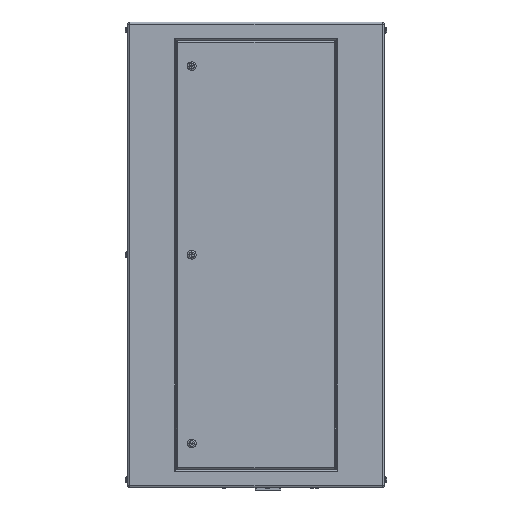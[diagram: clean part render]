
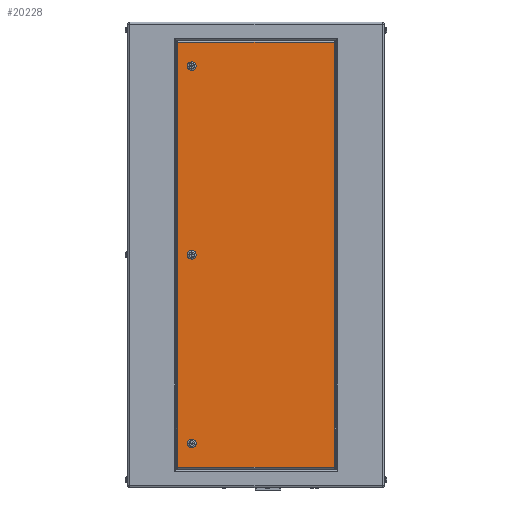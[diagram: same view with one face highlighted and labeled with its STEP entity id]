
A CAD part, left-side view. The second image highlights one B-rep face of the part: STEP entity #20228.
In plain terms, the highlighted planar face has unit normal (-1, 0, 0).
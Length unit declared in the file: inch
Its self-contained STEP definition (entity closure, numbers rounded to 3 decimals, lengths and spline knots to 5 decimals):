
#15 = CARTESIAN_POINT ( 'NONE',  ( -18.5, 8., 23.5 ) ) ;
#491 = ORIENTED_EDGE ( 'NONE', *, *, #8576, .T. ) ;
#955 = ORIENTED_EDGE ( 'NONE', *, *, #19459, .T. ) ;
#1074 = CIRCLE ( 'NONE', #25658, 0.55 ) ;
#1183 = CARTESIAN_POINT ( 'NONE',  ( -18.5, 8., -23.5 ) ) ;
#1375 = DIRECTION ( 'NONE',  ( 0., 0., -1. ) ) ;
#1640 = AXIS2_PLACEMENT_3D ( 'NONE', #17357, #29373, #23860 ) ;
#1978 = EDGE_CURVE ( 'NONE', #10268, #20912, #28036, .T. ) ;
#2084 = VERTEX_POINT ( 'NONE', #17800 ) ;
#2102 = FACE_BOUND ( 'NONE', #21386, .T. ) ;
#2834 = CARTESIAN_POINT ( 'NONE',  ( -18.5, 8., 23.5 ) ) ;
#3108 = VERTEX_POINT ( 'NONE', #20512 ) ;
#4236 = LINE ( 'NONE', #16302, #12051 ) ;
#4587 = DIRECTION ( 'NONE',  ( 0., 0., -1. ) ) ;
#4954 = AXIS2_PLACEMENT_3D ( 'NONE', #10650, #10827, #29522 ) ;
#5475 = PLANE ( 'NONE',  #4954 ) ;
#5876 = DIRECTION ( 'NONE',  ( 0., -1., 0. ) ) ;
#6893 = DIRECTION ( 'NONE',  ( 0., 0., -1. ) ) ;
#6929 = VERTEX_POINT ( 'NONE', #21140 ) ;
#7558 = DIRECTION ( 'NONE',  ( 0., 0., 1. ) ) ;
#7749 = ORIENTED_EDGE ( 'NONE', *, *, #37951, .T. ) ;
#7921 = CARTESIAN_POINT ( 'NONE',  ( -18.5, -9.74, -26.49 ) ) ;
#8220 = EDGE_LOOP ( 'NONE', ( #23922, #7749, #16414, #25724 ) ) ;
#8359 = VERTEX_POINT ( 'NONE', #29612 ) ;
#8576 = EDGE_CURVE ( 'NONE', #20912, #10268, #34447, .T. ) ;
#9138 = EDGE_LOOP ( 'NONE', ( #13337, #955 ) ) ;
#10268 = VERTEX_POINT ( 'NONE', #23968 ) ;
#10499 = DIRECTION ( 'NONE',  ( 1., 0., 0. ) ) ;
#10514 = CIRCLE ( 'NONE', #1640, 0.55 ) ;
#10637 = EDGE_LOOP ( 'NONE', ( #491, #34316 ) ) ;
#10650 = CARTESIAN_POINT ( 'NONE',  ( -18.5, 16., -29. ) ) ;
#10827 = DIRECTION ( 'NONE',  ( 1., 0., 0. ) ) ;
#10915 = VECTOR ( 'NONE', #5876, 39.37008 ) ;
#11702 = CARTESIAN_POINT ( 'NONE',  ( -18.5, 9.74, -29. ) ) ;
#12051 = VECTOR ( 'NONE', #33759, 39.37008 ) ;
#12055 = LINE ( 'NONE', #15181, #10915 ) ;
#12453 = LINE ( 'NONE', #11702, #20386 ) ;
#13337 = ORIENTED_EDGE ( 'NONE', *, *, #15431, .T. ) ;
#13520 = LINE ( 'NONE', #28257, #25424 ) ;
#14072 = DIRECTION ( 'NONE',  ( 1., 0., 0. ) ) ;
#14502 = DIRECTION ( 'NONE',  ( 1., 0., 0. ) ) ;
#14922 = DIRECTION ( 'NONE',  ( 1., 0., 0. ) ) ;
#15181 = CARTESIAN_POINT ( 'NONE',  ( -18.5, 16., -26.49 ) ) ;
#15431 = EDGE_CURVE ( 'NONE', #3108, #15680, #10514, .T. ) ;
#15486 = AXIS2_PLACEMENT_3D ( 'NONE', #19787, #14072, #4587 ) ;
#15680 = VERTEX_POINT ( 'NONE', #26003 ) ;
#16302 = CARTESIAN_POINT ( 'NONE',  ( -18.5, 16., 26.49 ) ) ;
#16414 = ORIENTED_EDGE ( 'NONE', *, *, #21069, .T. ) ;
#17194 = EDGE_CURVE ( 'NONE', #2084, #28079, #12453, .T. ) ;
#17357 = CARTESIAN_POINT ( 'NONE',  ( -18.5, 8., 0. ) ) ;
#17800 = CARTESIAN_POINT ( 'NONE',  ( -18.5, 9.74, 26.49 ) ) ;
#17819 = CARTESIAN_POINT ( 'NONE',  ( -18.5, 8., 24.05 ) ) ;
#18283 = CARTESIAN_POINT ( 'NONE',  ( -18.5, 8., 0. ) ) ;
#19459 = EDGE_CURVE ( 'NONE', #15680, #3108, #1074, .T. ) ;
#19787 = CARTESIAN_POINT ( 'NONE',  ( -18.5, 8., -23.5 ) ) ;
#20228 = ADVANCED_FACE ( 'NONE', ( #31848, #38358, #2102, #32423 ), #5475, .F. ) ;
#20259 = CIRCLE ( 'NONE', #30300, 0.55 ) ;
#20386 = VECTOR ( 'NONE', #6893, 39.37008 ) ;
#20512 = CARTESIAN_POINT ( 'NONE',  ( -18.5, 8., -0.55 ) ) ;
#20681 = DIRECTION ( 'NONE',  ( 0., 0., -1. ) ) ;
#20912 = VERTEX_POINT ( 'NONE', #31226 ) ;
#21069 = EDGE_CURVE ( 'NONE', #8359, #2084, #4236, .T. ) ;
#21140 = CARTESIAN_POINT ( 'NONE',  ( -18.5, 8., 22.95 ) ) ;
#21386 = EDGE_LOOP ( 'NONE', ( #37422, #26268 ) ) ;
#22257 = EDGE_CURVE ( 'NONE', #6929, #27920, #20259, .T. ) ;
#23188 = EDGE_CURVE ( 'NONE', #28079, #32383, #12055, .T. ) ;
#23860 = DIRECTION ( 'NONE',  ( 0., 0., -1. ) ) ;
#23922 = ORIENTED_EDGE ( 'NONE', *, *, #23188, .T. ) ;
#23968 = CARTESIAN_POINT ( 'NONE',  ( -18.5, 8., -22.95 ) ) ;
#25424 = VECTOR ( 'NONE', #7558, 39.37008 ) ;
#25658 = AXIS2_PLACEMENT_3D ( 'NONE', #18283, #26967, #20681 ) ;
#25724 = ORIENTED_EDGE ( 'NONE', *, *, #17194, .T. ) ;
#26003 = CARTESIAN_POINT ( 'NONE',  ( -18.5, 8., 0.55 ) ) ;
#26268 = ORIENTED_EDGE ( 'NONE', *, *, #27078, .T. ) ;
#26918 = DIRECTION ( 'NONE',  ( 0., 0., -1. ) ) ;
#26967 = DIRECTION ( 'NONE',  ( 1., 0., 0. ) ) ;
#27078 = EDGE_CURVE ( 'NONE', #27920, #6929, #30433, .T. ) ;
#27920 = VERTEX_POINT ( 'NONE', #17819 ) ;
#28036 = CIRCLE ( 'NONE', #15486, 0.55 ) ;
#28079 = VERTEX_POINT ( 'NONE', #37821 ) ;
#28257 = CARTESIAN_POINT ( 'NONE',  ( -18.5, -9.74, -29. ) ) ;
#29373 = DIRECTION ( 'NONE',  ( 1., 0., 0. ) ) ;
#29522 = DIRECTION ( 'NONE',  ( 0., 0., -1. ) ) ;
#29612 = CARTESIAN_POINT ( 'NONE',  ( -18.5, -9.74, 26.49 ) ) ;
#30300 = AXIS2_PLACEMENT_3D ( 'NONE', #2834, #14922, #26918 ) ;
#30433 = CIRCLE ( 'NONE', #38629, 0.55 ) ;
#31226 = CARTESIAN_POINT ( 'NONE',  ( -18.5, 8., -24.05 ) ) ;
#31848 = FACE_BOUND ( 'NONE', #10637, .T. ) ;
#32383 = VERTEX_POINT ( 'NONE', #7921 ) ;
#32423 = FACE_OUTER_BOUND ( 'NONE', #8220, .T. ) ;
#32581 = AXIS2_PLACEMENT_3D ( 'NONE', #1183, #10499, #1375 ) ;
#33759 = DIRECTION ( 'NONE',  ( 0., 1., 0. ) ) ;
#34316 = ORIENTED_EDGE ( 'NONE', *, *, #1978, .T. ) ;
#34447 = CIRCLE ( 'NONE', #32581, 0.55 ) ;
#37422 = ORIENTED_EDGE ( 'NONE', *, *, #22257, .T. ) ;
#37821 = CARTESIAN_POINT ( 'NONE',  ( -18.5, 9.74, -26.49 ) ) ;
#37951 = EDGE_CURVE ( 'NONE', #32383, #8359, #13520, .T. ) ;
#38358 = FACE_BOUND ( 'NONE', #9138, .T. ) ;
#38457 = DIRECTION ( 'NONE',  ( 0., 0., -1. ) ) ;
#38629 = AXIS2_PLACEMENT_3D ( 'NONE', #15, #14502, #38457 ) ;
